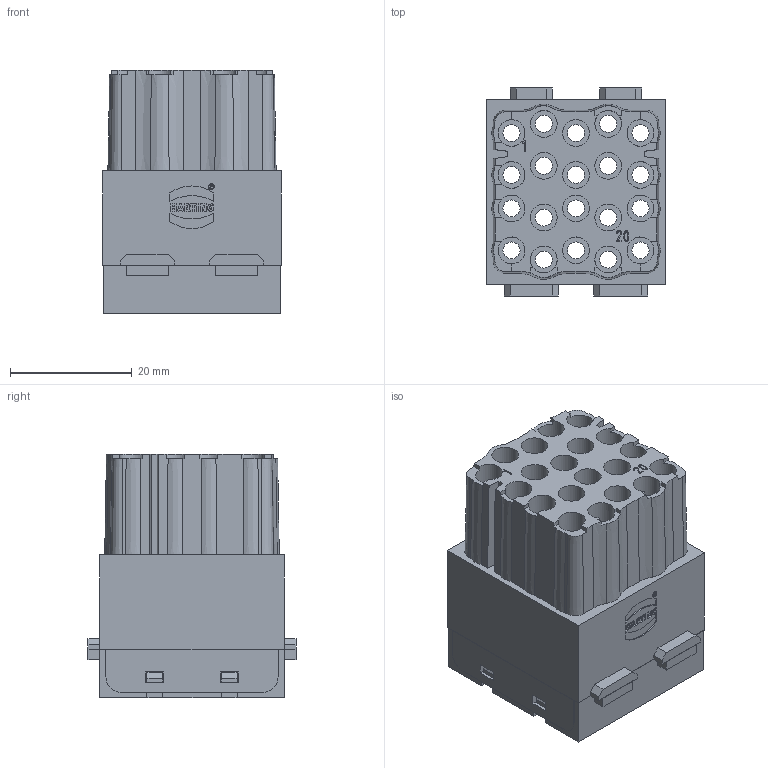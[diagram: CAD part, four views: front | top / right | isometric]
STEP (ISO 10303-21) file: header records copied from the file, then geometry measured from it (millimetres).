
FILE_DESCRIPTION(/* description */ (''),/* implementation_level */ '2;1');
FILE_NAME(/* name */ '100095325ugm000_g.stp',/* time_stamp */ '2022-03-16T13:08:40+01:00',/* author */ (''),/* organization */ (''),/* preprocessor_version */ 'ST-DEVELOPER v16.7',/* originating_system */ 'SIEMENS PLM Software NX 1911',/* authorisation */ '');
FILE_SCHEMA (('AUTOMOTIVE_DESIGN { 1 0 10303 214 3 1 1 1 }'));
Length unit declared in the file: millimetre
Products named in the file (1): 100095325ugm000_g
Bounding box: 29.35 x 34.2 x 39.95 mm (x, y, z)
Volume: 18834.6 mm3; surface area: 18783.6 mm2
Topology: 1 solids, 1 shells, 745 faces, 2067 edges, 1391 vertices
Faces by surface type: plane 489, cylinder 114, extrusion 78, cone 44, bspline 20
Full cylindrical faces by diameter (mm): 0.797 x1, 0.942 x1, 2.8 x20, 4.4 x20, 4.8 x20
Entity records: 25059 total; most frequent: CARTESIAN_POINT 6104, ORIENTED_EDGE 3900, DIRECTION 3367, EDGE_CURVE 1950, VERTEX_POINT 1347, VECTOR 1309, LINE 1231, AXIS2_PLACEMENT_3D 1029
